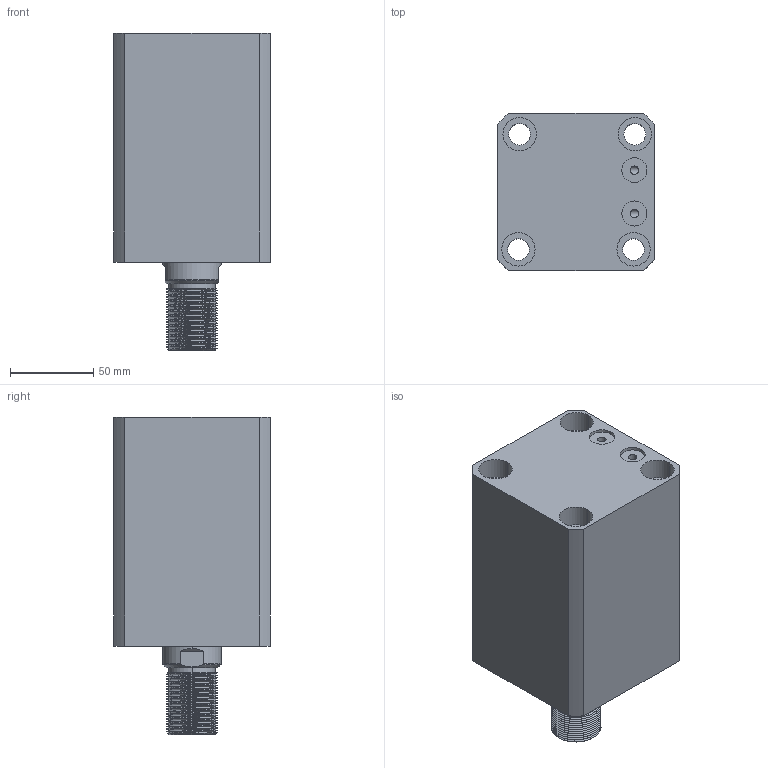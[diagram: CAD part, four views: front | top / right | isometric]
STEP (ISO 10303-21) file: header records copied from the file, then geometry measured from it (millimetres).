
FILE_DESCRIPTION (( 'STEP AP214' ), '1' );
FILE_NAME ('chtb-sdmb63x70w_asm.STEP', '2018-05-18T11:55:42', ( 'Windows' ), ( 'Microsoft' ), 'SwSTEP 2.0', 'SolidWorks 2015', '' );
FILE_SCHEMA (( 'AUTOMOTIVE_DESIGN' ));
Length unit declared in the file: millimetre
Products named in the file (4): CHTB-SDMB63X70NBT; CHTB63X70WHSG; CHTB-63QG; chtb-sdmb63x70w_asm
Assembly tree (3 placements, depth 2):
  chtb-sdmb63x70w_asm
    CHTB-63QG
    CHTB63X70WHSG
    CHTB-SDMB63X70NBT
Bounding box: 94 x 94 x 190 mm (x, y, z)
Volume: 993290.2 mm3; surface area: 167048.9 mm2
Topology: 3 solids, 3 shells, 218 faces, 628 edges, 427 vertices
Faces by surface type: cylinder 156, plane 33, bspline 14, cone 9, torus 6
Entity records: 22278 total; most frequent: CARTESIAN_POINT 17042, ORIENTED_EDGE 1248, DIRECTION 869, EDGE_CURVE 624, VERTEX_POINT 427, AXIS2_PLACEMENT_3D 339, EDGE_LOOP 251, ADVANCED_FACE 218
